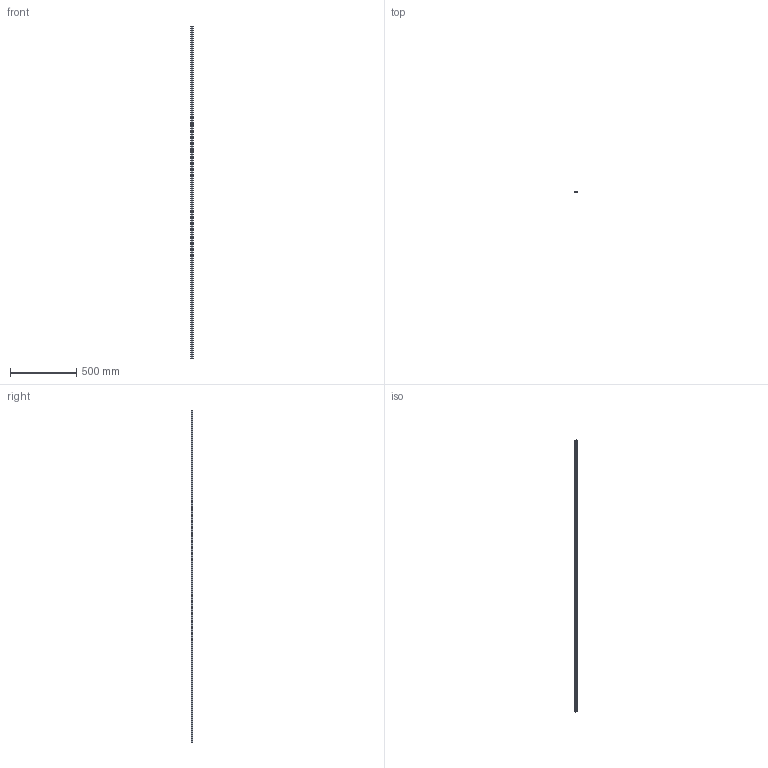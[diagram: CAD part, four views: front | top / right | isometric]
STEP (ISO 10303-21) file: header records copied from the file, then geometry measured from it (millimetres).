
FILE_DESCRIPTION (( 'STEP AP203' ), '1' );
FILE_NAME ('ChannelLine_S_24.STEP', '2024-11-29T07:45:18', ( '' ), ( '' ), 'SwSTEP 2.0', 'SolidWorks 2023', '' );
FILE_SCHEMA (( 'CONFIG_CONTROL_DESIGN' ));
Length unit declared in the file: millimetre
Products named in the file (2): 2615601_26.156.97 L=2,5m; ChannelLine_S_24
Assembly tree (1 placements, depth 2):
  ChannelLine_S_24
    2615601_26.156.97 L=2,5m
Bounding box: 18.1 x 9 x 2500 mm (x, y, z)
Volume: 134927.7 mm3; surface area: 246595.4 mm2
Topology: 1 solids, 1 shells, 72 faces, 210 edges, 140 vertices
Faces by surface type: cylinder 42, plane 30
Entity records: 2614 total; most frequent: DIRECTION 446, CARTESIAN_POINT 426, ORIENTED_EDGE 420, EDGE_CURVE 210, AXIS2_PLACEMENT_3D 160, VERTEX_POINT 140, VECTOR 126, LINE 126
